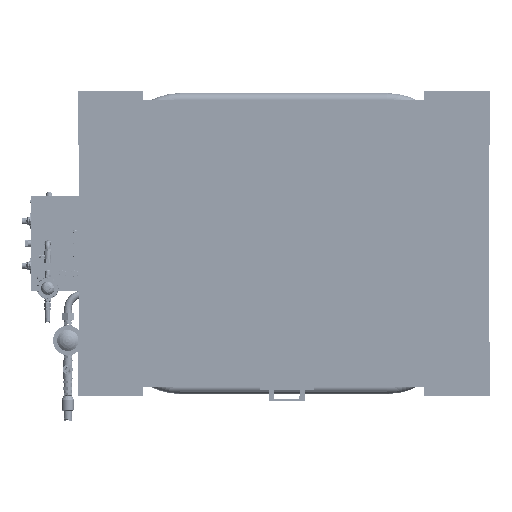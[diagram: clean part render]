
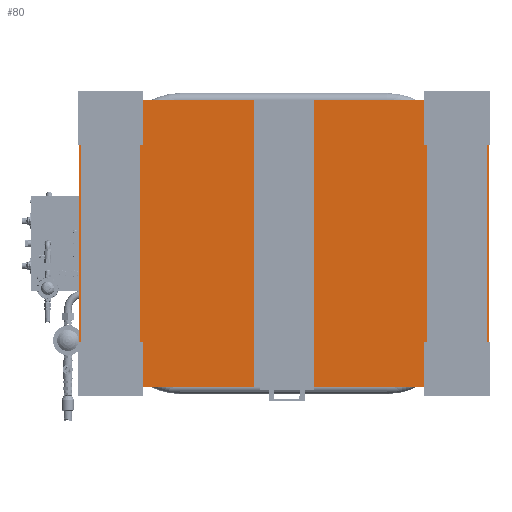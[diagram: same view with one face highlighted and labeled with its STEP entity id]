
A CAD part, front view. The second image highlights one B-rep face of the part: STEP entity #80.
In plain terms, the highlighted planar face has unit normal (0, -1, 0).
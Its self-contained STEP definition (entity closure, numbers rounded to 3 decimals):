
#1=DIRECTION('',(0.,0.,-1.));
#2=VECTOR('',#1,48.);
#3=CARTESIAN_POINT('',(34.25,0.,24.));
#4=LINE('',#3,#2);
#5=DIRECTION('',(-1.,0.,0.));
#6=VECTOR('',#5,68.5);
#7=CARTESIAN_POINT('',(34.25,0.,-24.));
#8=LINE('',#7,#6);
#9=DIRECTION('',(0.,0.,1.));
#10=VECTOR('',#9,48.);
#11=CARTESIAN_POINT('',(-34.25,0.,-24.));
#12=LINE('',#11,#10);
#13=DIRECTION('',(1.,0.,0.));
#14=VECTOR('',#13,68.5);
#15=CARTESIAN_POINT('',(-34.25,0.,24.));
#16=LINE('',#15,#14);
#49=CARTESIAN_POINT('',(34.25,0.,24.));
#50=CARTESIAN_POINT('',(34.25,0.,-24.));
#51=VERTEX_POINT('',#49);
#52=VERTEX_POINT('',#50);
#53=CARTESIAN_POINT('',(-34.25,0.,-24.));
#54=VERTEX_POINT('',#53);
#55=CARTESIAN_POINT('',(-34.25,0.,24.));
#56=VERTEX_POINT('',#55);
#65=CARTESIAN_POINT('',(0.,0.,0.));
#66=DIRECTION('',(0.,1.,0.));
#67=DIRECTION('',(-1.,0.,0.));
#68=AXIS2_PLACEMENT_3D('',#65,#66,#67);
#69=PLANE('',#68);
#71=ORIENTED_EDGE('',*,*,#70,.T.);
#73=ORIENTED_EDGE('',*,*,#72,.T.);
#75=ORIENTED_EDGE('',*,*,#74,.T.);
#77=ORIENTED_EDGE('',*,*,#76,.T.);
#78=EDGE_LOOP('',(#71,#73,#75,#77));
#79=FACE_OUTER_BOUND('',#78,.F.);
#80=ADVANCED_FACE('',(#79),#69,.F.);
#70=EDGE_CURVE('',#51,#52,#4,.T.);
#72=EDGE_CURVE('',#52,#54,#8,.T.);
#74=EDGE_CURVE('',#54,#56,#12,.T.);
#76=EDGE_CURVE('',#56,#51,#16,.T.);
